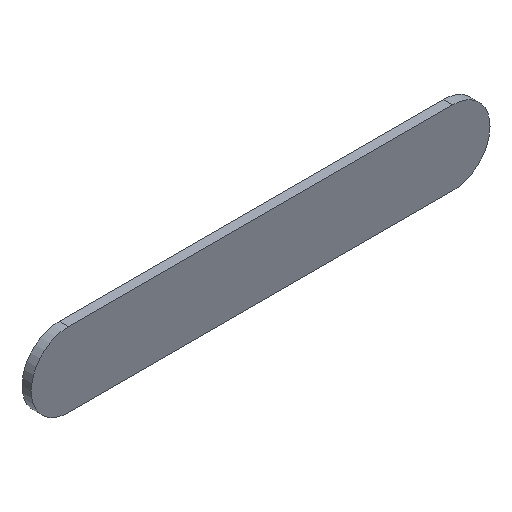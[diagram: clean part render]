
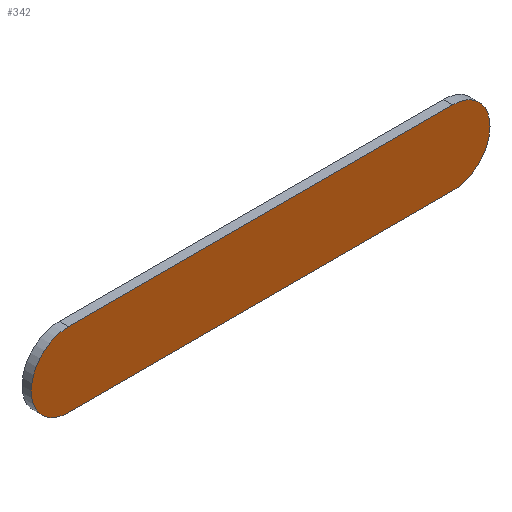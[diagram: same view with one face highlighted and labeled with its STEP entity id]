
A CAD part, isometric view. The second image highlights one B-rep face of the part: STEP entity #342.
In plain terms, the highlighted planar face has unit normal (0, -1, 0).
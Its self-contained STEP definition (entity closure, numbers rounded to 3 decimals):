
#24 = VERTEX_POINT('',#25);
#25 = CARTESIAN_POINT('',(0.,21.5,12.));
#32 = PLANE('',#33);
#33 = AXIS2_PLACEMENT_3D('',#34,#35,#36);
#34 = CARTESIAN_POINT('',(0.,24.5,12.));
#35 = DIRECTION('',(-0.,0.,1.));
#36 = DIRECTION('',(1.,0.,0.));
#44 = CYLINDRICAL_SURFACE('',#45,12.);
#45 = AXIS2_PLACEMENT_3D('',#46,#47,#48);
#46 = CARTESIAN_POINT('',(0.,24.5,0.));
#47 = DIRECTION('',(0.,1.,0.));
#48 = DIRECTION('',(0.,0.,-1.));
#56 = EDGE_CURVE('',#24,#57,#59,.T.);
#57 = VERTEX_POINT('',#58);
#58 = CARTESIAN_POINT('',(124.,21.5,12.));
#59 = SURFACE_CURVE('',#60,(#64,#71),.PCURVE_S1.);
#60 = LINE('',#61,#62);
#61 = CARTESIAN_POINT('',(0.,21.5,12.));
#62 = VECTOR('',#63,1.);
#63 = DIRECTION('',(1.,0.,0.));
#64 = PCURVE('',#32,#65);
#65 = DEFINITIONAL_REPRESENTATION('',(#66),#70);
#66 = LINE('',#67,#68);
#67 = CARTESIAN_POINT('',(0.,-3.));
#68 = VECTOR('',#69,1.);
#69 = DIRECTION('',(1.,0.));
#70 = ( GEOMETRIC_REPRESENTATION_CONTEXT(2) 
PARAMETRIC_REPRESENTATION_CONTEXT() REPRESENTATION_CONTEXT('2D SPACE',''
  ) );
#71 = PCURVE('',#72,#77);
#72 = PLANE('',#73);
#73 = AXIS2_PLACEMENT_3D('',#74,#75,#76);
#74 = CARTESIAN_POINT('',(62.,21.5,0.));
#75 = DIRECTION('',(0.,1.,0.));
#76 = DIRECTION('',(0.,-0.,1.));
#77 = DEFINITIONAL_REPRESENTATION('',(#78),#82);
#78 = LINE('',#79,#80);
#79 = CARTESIAN_POINT('',(12.,-62.));
#80 = VECTOR('',#81,1.);
#81 = DIRECTION('',(0.,1.));
#82 = ( GEOMETRIC_REPRESENTATION_CONTEXT(2) 
PARAMETRIC_REPRESENTATION_CONTEXT() REPRESENTATION_CONTEXT('2D SPACE',''
  ) );
#100 = CYLINDRICAL_SURFACE('',#101,12.);
#101 = AXIS2_PLACEMENT_3D('',#102,#103,#104);
#102 = CARTESIAN_POINT('',(124.,24.5,0.));
#103 = DIRECTION('',(0.,1.,0.));
#104 = DIRECTION('',(0.,0.,1.));
#142 = EDGE_CURVE('',#57,#143,#145,.T.);
#143 = VERTEX_POINT('',#144);
#144 = CARTESIAN_POINT('',(124.,21.5,-12.));
#145 = SURFACE_CURVE('',#146,(#151,#158),.PCURVE_S1.);
#146 = CIRCLE('',#147,12.);
#147 = AXIS2_PLACEMENT_3D('',#148,#149,#150);
#148 = CARTESIAN_POINT('',(124.,21.5,0.));
#149 = DIRECTION('',(0.,1.,0.));
#150 = DIRECTION('',(0.,0.,1.));
#151 = PCURVE('',#100,#152);
#152 = DEFINITIONAL_REPRESENTATION('',(#153),#157);
#153 = LINE('',#154,#155);
#154 = CARTESIAN_POINT('',(0.,-3.));
#155 = VECTOR('',#156,1.);
#156 = DIRECTION('',(1.,0.));
#157 = ( GEOMETRIC_REPRESENTATION_CONTEXT(2) 
PARAMETRIC_REPRESENTATION_CONTEXT() REPRESENTATION_CONTEXT('2D SPACE',''
  ) );
#158 = PCURVE('',#72,#159);
#159 = DEFINITIONAL_REPRESENTATION('',(#160),#164);
#160 = CIRCLE('',#161,12.);
#161 = AXIS2_PLACEMENT_2D('',#162,#163);
#162 = CARTESIAN_POINT('',(0.,62.));
#163 = DIRECTION('',(1.,0.));
#164 = ( GEOMETRIC_REPRESENTATION_CONTEXT(2) 
PARAMETRIC_REPRESENTATION_CONTEXT() REPRESENTATION_CONTEXT('2D SPACE',''
  ) );
#182 = PLANE('',#183);
#183 = AXIS2_PLACEMENT_3D('',#184,#185,#186);
#184 = CARTESIAN_POINT('',(124.,24.5,-12.));
#185 = DIRECTION('',(-0.,-0.,-1.));
#186 = DIRECTION('',(-1.,0.,0.));
#220 = EDGE_CURVE('',#143,#221,#223,.T.);
#221 = VERTEX_POINT('',#222);
#222 = CARTESIAN_POINT('',(0.,21.5,-12.));
#223 = SURFACE_CURVE('',#224,(#228,#235),.PCURVE_S1.);
#224 = LINE('',#225,#226);
#225 = CARTESIAN_POINT('',(124.,21.5,-12.));
#226 = VECTOR('',#227,1.);
#227 = DIRECTION('',(-1.,0.,0.));
#228 = PCURVE('',#182,#229);
#229 = DEFINITIONAL_REPRESENTATION('',(#230),#234);
#230 = LINE('',#231,#232);
#231 = CARTESIAN_POINT('',(0.,-3.));
#232 = VECTOR('',#233,1.);
#233 = DIRECTION('',(1.,0.));
#234 = ( GEOMETRIC_REPRESENTATION_CONTEXT(2) 
PARAMETRIC_REPRESENTATION_CONTEXT() REPRESENTATION_CONTEXT('2D SPACE',''
  ) );
#235 = PCURVE('',#72,#236);
#236 = DEFINITIONAL_REPRESENTATION('',(#237),#241);
#237 = LINE('',#238,#239);
#238 = CARTESIAN_POINT('',(-12.,62.));
#239 = VECTOR('',#240,1.);
#240 = DIRECTION('',(0.,-1.));
#241 = ( GEOMETRIC_REPRESENTATION_CONTEXT(2) 
PARAMETRIC_REPRESENTATION_CONTEXT() REPRESENTATION_CONTEXT('2D SPACE',''
  ) );
#291 = EDGE_CURVE('',#221,#24,#292,.T.);
#292 = SURFACE_CURVE('',#293,(#298,#305),.PCURVE_S1.);
#293 = CIRCLE('',#294,12.);
#294 = AXIS2_PLACEMENT_3D('',#295,#296,#297);
#295 = CARTESIAN_POINT('',(0.,21.5,0.));
#296 = DIRECTION('',(0.,1.,0.));
#297 = DIRECTION('',(0.,0.,-1.));
#298 = PCURVE('',#44,#299);
#299 = DEFINITIONAL_REPRESENTATION('',(#300),#304);
#300 = LINE('',#301,#302);
#301 = CARTESIAN_POINT('',(0.,-3.));
#302 = VECTOR('',#303,1.);
#303 = DIRECTION('',(1.,0.));
#304 = ( GEOMETRIC_REPRESENTATION_CONTEXT(2) 
PARAMETRIC_REPRESENTATION_CONTEXT() REPRESENTATION_CONTEXT('2D SPACE',''
  ) );
#305 = PCURVE('',#72,#306);
#306 = DEFINITIONAL_REPRESENTATION('',(#307),#311);
#307 = CIRCLE('',#308,12.);
#308 = AXIS2_PLACEMENT_2D('',#309,#310);
#309 = CARTESIAN_POINT('',(0.,-62.));
#310 = DIRECTION('',(-1.,0.));
#311 = ( GEOMETRIC_REPRESENTATION_CONTEXT(2) 
PARAMETRIC_REPRESENTATION_CONTEXT() REPRESENTATION_CONTEXT('2D SPACE',''
  ) );
#342 = ADVANCED_FACE('',(#343),#72,.F.);
#343 = FACE_BOUND('',#344,.F.);
#344 = EDGE_LOOP('',(#345,#346,#347,#348));
#345 = ORIENTED_EDGE('',*,*,#56,.T.);
#346 = ORIENTED_EDGE('',*,*,#142,.T.);
#347 = ORIENTED_EDGE('',*,*,#220,.T.);
#348 = ORIENTED_EDGE('',*,*,#291,.T.);
